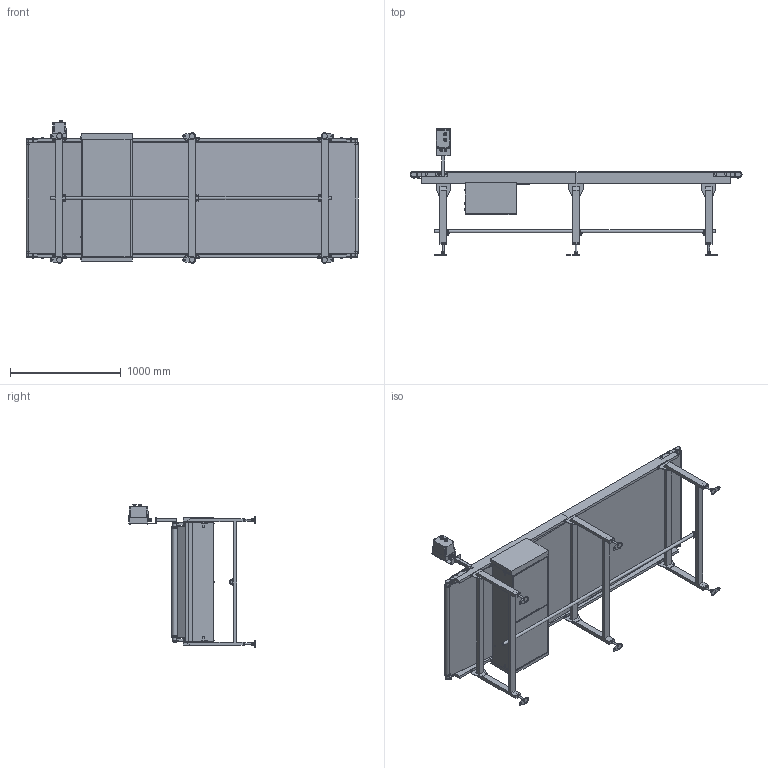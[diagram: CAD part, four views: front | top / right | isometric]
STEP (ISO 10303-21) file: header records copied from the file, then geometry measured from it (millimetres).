
FILE_DESCRIPTION( (''), '2;1');
FILE_NAME ('WEB-FB3C-340-1000-300-K-30.stp','2025-10-16T10:43:49',(''),(''),'spGate 20.6.2 (****-****-****-****)','','');
FILE_SCHEMA (('AUTOMOTIVE_DESIGN'));
Length unit declared in the file: millimetre
Products named in the file (53): WEB-FB3C-340-1000-300-K-30; TEMP_X_T-prt0; TEMP_X_T-prt1; TEMP_X_T-prt2; TEMP_X_T-prt3; TEMP_X_T-prt4; TEMP_X_T-prt5; TEMP_X_T-prt6; TEMP_X_T-prt7; TEMP_X_T-prt8; TEMP_X_T-prt9; TEMP_X_T-prt10; TEMP_X_T-prt11; TEMP_X_T-prt12; TEMP_X_T-prt13; TEMP_X_T-prt14; TEMP_X_T-prt15; TEMP_X_T-prt16; TEMP_X_T-prt17; TEMP_X_T-prt18; TEMP_X_T-prt19; TEMP_X_T-prt20; TEMP_X_T-prt21; TEMP_X_T-prt22; TEMP_X_T-prt23; TEMP_X_T-prt24; TEMP_X_T-prt25; TEMP_X_T-prt26; TEMP_X_T-prt27; TEMP_X_T-prt28; TEMP_X_T-prt29; TEMP_X_T-prt30; TEMP_X_T-prt31; TEMP_X_T-prt32; TEMP_X_T-prt33; TEMP_X_T-prt34; TEMP_X_T-prt35; TEMP_X_T-prt36; TEMP_X_T-prt37; TEMP_X_T-prt38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
Assembly tree (52 placements, depth 2):
  WEB-FB3C-340-1000-300-K-30
    TEMP_X_T-prt0
    TEMP_X_T-prt1
    TEMP_X_T-prt2
    TEMP_X_T-prt3
    TEMP_X_T-prt4
    TEMP_X_T-prt5
    TEMP_X_T-prt6
    TEMP_X_T-prt7
    TEMP_X_T-prt8
    TEMP_X_T-prt9
    TEMP_X_T-prt10
    TEMP_X_T-prt11
    TEMP_X_T-prt12
    TEMP_X_T-prt13
    TEMP_X_T-prt14
    TEMP_X_T-prt15
    TEMP_X_T-prt16
    TEMP_X_T-prt17
    TEMP_X_T-prt18
    TEMP_X_T-prt19
    TEMP_X_T-prt20
    TEMP_X_T-prt21
    TEMP_X_T-prt22
    TEMP_X_T-prt23
    TEMP_X_T-prt24
    TEMP_X_T-prt25
    TEMP_X_T-prt26
    TEMP_X_T-prt27
    TEMP_X_T-prt28
    TEMP_X_T-prt29
    TEMP_X_T-prt30
    TEMP_X_T-prt31
    TEMP_X_T-prt32
    TEMP_X_T-prt33
    TEMP_X_T-prt34
    TEMP_X_T-prt35
    TEMP_X_T-prt36
    TEMP_X_T-prt37
    TEMP_X_T-prt38
    TEMP_X_T-prt39
    TEMP_X_T-prt40
    TEMP_X_T-prt41
    TEMP_X_T-prt42
    TEMP_X_T-prt43
    TEMP_X_T-prt44
    TEMP_X_T-prt45
    TEMP_X_T-prt46
    TEMP_X_T-prt47
    TEMP_X_T-prt48
    TEMP_X_T-prt49
    TEMP_X_T-prt50
    TEMP_X_T-prt51
Bounding box: 3002.36 x 1141 x 1287.5 mm (x, y, z)
Volume: 298258216.2 mm3; surface area: 26573710.2 mm2
Topology: 52 solids, 56 shells, 1448 faces, 3492 edges, 2331 vertices
Faces by surface type: plane 1180, cylinder 207, bspline 61
Full cylindrical faces by diameter (mm): 6 x20, 7 x8, 8 x12, 8.5 x4, 10 x2, 11.8 x8, 12 x4, 12.2 x16, 12.3 x2, 13 x6, 15 x4, 15.4 x12, 16 x12, 17 x18, 18.4 x8, 19 x2, 19.4 x4, 20 x4, 20.6 x2, 22 x2, 24 x4, 27.2 x1, 28 x2, 29 x2, 48.6 x2
Entity records: 74436 total; most frequent: CARTESIAN_POINT 10064, DIRECTION 7017, ORIENTED_EDGE 6980, COLOUR_RGB 4990, PRESENTATION_STYLE_ASSIGNMENT 4990, STYLED_ITEM 4990, EDGE_CURVE 3490, DRAUGHTING_PRE_DEFINED_CURVE_FONT 3490
